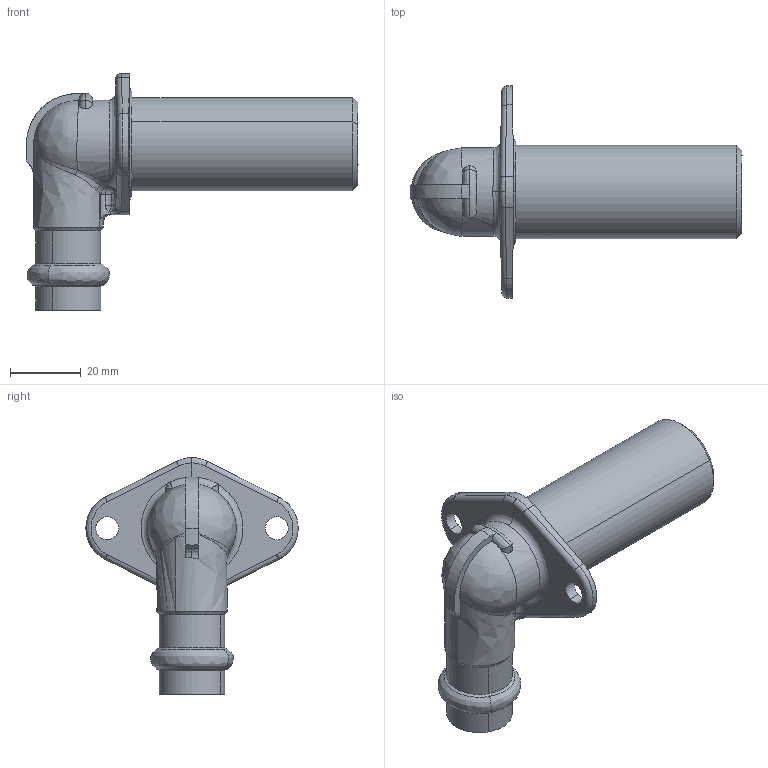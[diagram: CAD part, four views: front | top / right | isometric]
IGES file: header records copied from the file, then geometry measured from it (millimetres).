
Start section: 3D InterOp IGES (Version 25 0 1), Spatial Corp. Copyright (c) 1999-2007.
Global section: file name: pim0002064.igs; native system: Spatial Corp.; preprocessor: 3D InterOp ACIS/IGES; author: CAD-PIM; organization: TransMagic, Inc.; date: 20150318.113303; units: millimetre
Bounding box: 93.97 x 60.07 x 67 mm (x, y, z)
Volume: 50182 mm3; surface area: 15532 mm2
Topology: 1 solids, 1 shells, 108 faces, 299 edges, 187 vertices
Faces by surface type: bspline 108
